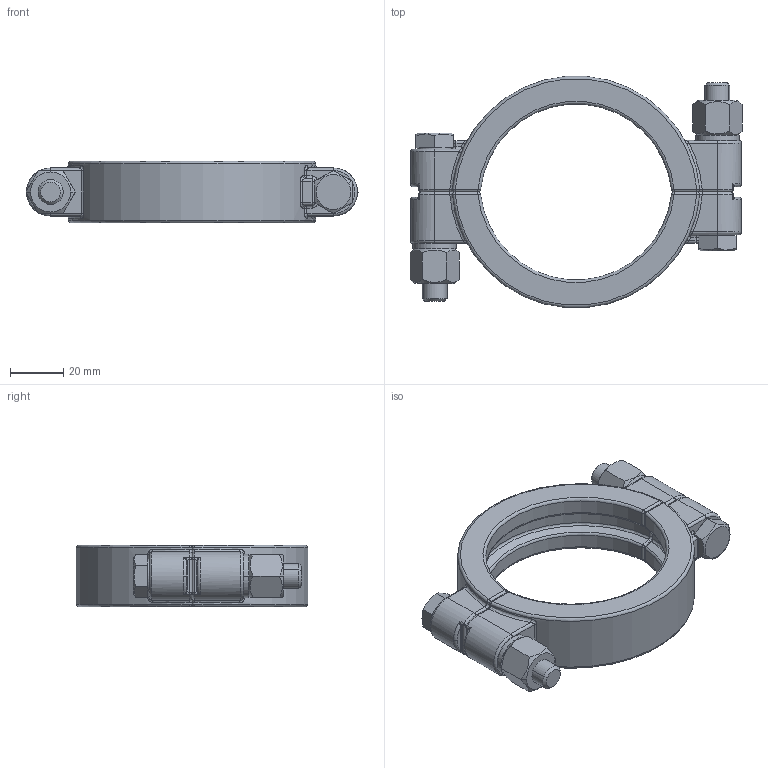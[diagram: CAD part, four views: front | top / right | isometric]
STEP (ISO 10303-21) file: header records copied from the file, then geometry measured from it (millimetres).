
FILE_DESCRIPTION (( 'STEP AP214' ), '1' );
FILE_NAME ('13MHP2.5.STEP', '2023-09-11T12:59:36', ( '' ), ( '' ), 'SwSTEP 2.0', 'SolidWorks 2021', '' );
FILE_SCHEMA (( 'AUTOMOTIVE_DESIGN' ));
Length unit declared in the file: millimetre
Products named in the file (1): 13MHP2.5
Bounding box: 124.48 x 86.65 x 23 mm (x, y, z)
Surface area: 26948.5 mm2 (no closed solid volume)
Topology: 0 solids, 10 shells, 342 faces, 818 edges, 436 vertices
Faces by surface type: cylinder 112, plane 64, bspline 52, torus 50, sphere 44, cone 20
Entity records: 15110 total; most frequent: CARTESIAN_POINT 4053, DIRECTION 1598, ORIENTED_EDGE 1428, EDGE_CURVE 770, AXIS2_PLACEMENT_3D 677, VERTEX_POINT 436, CIRCLE 386, EDGE_LOOP 352
